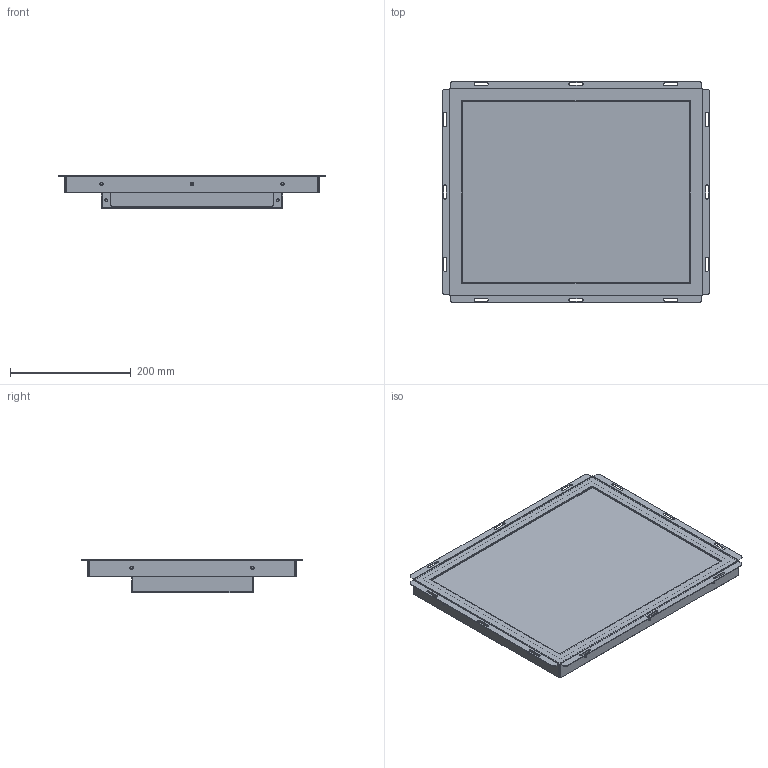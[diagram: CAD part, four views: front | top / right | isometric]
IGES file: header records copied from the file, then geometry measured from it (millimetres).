
Global section: file name: FIE190LM; native system: AutoCAD 2019 – 繁體中文 (Traditional Chinese),62HAutode; preprocessor: sk Translation Framework DWG producer (atf_dwg_producer); organization: unknown; date: 20210630.114657; units: millimetre
Bounding box: 444 x 367.6 x 55 mm (x, y, z)
Volume: 1747233.5 mm3; surface area: 1136480.5 mm2
Topology: 13 solids, 13 shells, 1050 faces, 2668 edges, 1766 vertices
Faces by surface type: bspline 1050
